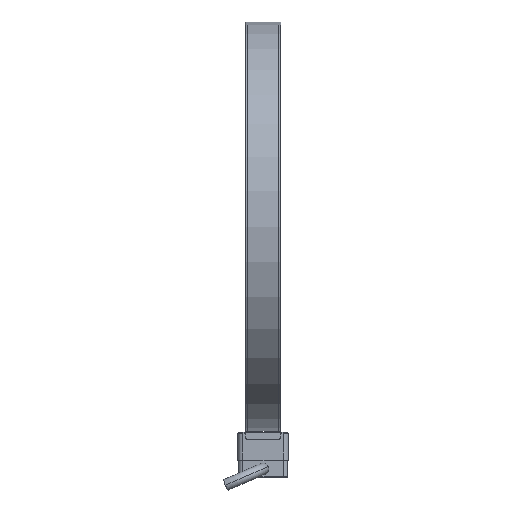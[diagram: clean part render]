
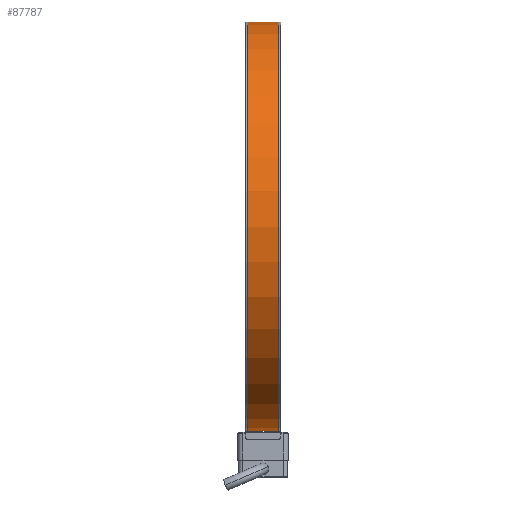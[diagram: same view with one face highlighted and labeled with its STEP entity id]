
A CAD part, left-side view. The second image highlights one B-rep face of the part: STEP entity #87787.
In plain terms, the highlighted cylindrical face has radius 81.2 mm (diameter 162.4 mm), a partial arc.
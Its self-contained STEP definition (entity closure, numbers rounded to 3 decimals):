
#4999 = ORIENTED_EDGE ( 'NONE', *, *, #75180, .F. ) ;
#5210 = LINE ( 'NONE', #77596, #59938 ) ;
#6247 = DIRECTION ( 'NONE',  ( 0., -1., 0. ) ) ;
#8149 = EDGE_CURVE ( 'NONE', #88885, #70833, #67208, .T. ) ;
#9163 = VECTOR ( 'NONE', #16979, 1000. ) ;
#11555 = DIRECTION ( 'NONE',  ( 0., 1., 0. ) ) ;
#13730 = DIRECTION ( 'NONE',  ( 0., 1., 0. ) ) ;
#16979 = DIRECTION ( 'NONE',  ( 0., 1., 0. ) ) ;
#20034 = DIRECTION ( 'NONE',  ( 0., 0., 1. ) ) ;
#22773 = CARTESIAN_POINT ( 'NONE',  ( 0., 13., -81.2 ) ) ;
#27158 = CYLINDRICAL_SURFACE ( 'NONE', #75065, 81.2 ) ;
#27684 = FACE_OUTER_BOUND ( 'NONE', #46614, .T. ) ;
#30270 = EDGE_CURVE ( 'NONE', #36877, #88885, #5210, .T. ) ;
#33752 = ORIENTED_EDGE ( 'NONE', *, *, #8149, .T. ) ;
#35223 = ORIENTED_EDGE ( 'NONE', *, *, #65746, .T. ) ;
#36877 = VERTEX_POINT ( 'NONE', #80282 ) ;
#38297 = AXIS2_PLACEMENT_3D ( 'NONE', #94047, #6247, #102563 ) ;
#42520 = DIRECTION ( 'NONE',  ( 0., 1., 0. ) ) ;
#43056 = DIRECTION ( 'NONE',  ( 0., 0., 1. ) ) ;
#46614 = EDGE_LOOP ( 'NONE', ( #4999, #35223, #63648, #33752 ) ) ;
#59665 = VERTEX_POINT ( 'NONE', #80185 ) ;
#59938 = VECTOR ( 'NONE', #13730, 1000. ) ;
#63648 = ORIENTED_EDGE ( 'NONE', *, *, #30270, .T. ) ;
#65746 = EDGE_CURVE ( 'NONE', #59665, #36877, #74459, .T. ) ;
#67208 = CIRCLE ( 'NONE', #38297, 81.2 ) ;
#70833 = VERTEX_POINT ( 'NONE', #22773 ) ;
#74459 = CIRCLE ( 'NONE', #101519, 81.2 ) ;
#75065 = AXIS2_PLACEMENT_3D ( 'NONE', #92584, #42520, #43056 ) ;
#75180 = EDGE_CURVE ( 'NONE', #59665, #70833, #89879, .T. ) ;
#77596 = CARTESIAN_POINT ( 'NONE',  ( 0., -15., 81.2 ) ) ;
#80185 = CARTESIAN_POINT ( 'NONE',  ( 0., 1., -81.2 ) ) ;
#80282 = CARTESIAN_POINT ( 'NONE',  ( 0., 1., 81.2 ) ) ;
#84431 = CARTESIAN_POINT ( 'NONE',  ( 0., 1., 0. ) ) ;
#87787 = ADVANCED_FACE ( 'NONE', ( #27684 ), #27158, .T. ) ;
#88885 = VERTEX_POINT ( 'NONE', #103108 ) ;
#89879 = LINE ( 'NONE', #98873, #9163 ) ;
#92584 = CARTESIAN_POINT ( 'NONE',  ( 0., -15., 0. ) ) ;
#94047 = CARTESIAN_POINT ( 'NONE',  ( 0., 13., 0. ) ) ;
#98873 = CARTESIAN_POINT ( 'NONE',  ( 0., -15., -81.2 ) ) ;
#101519 = AXIS2_PLACEMENT_3D ( 'NONE', #84431, #11555, #20034 ) ;
#102563 = DIRECTION ( 'NONE',  ( 0., 0., -1. ) ) ;
#103108 = CARTESIAN_POINT ( 'NONE',  ( 0., 13., 81.2 ) ) ;
